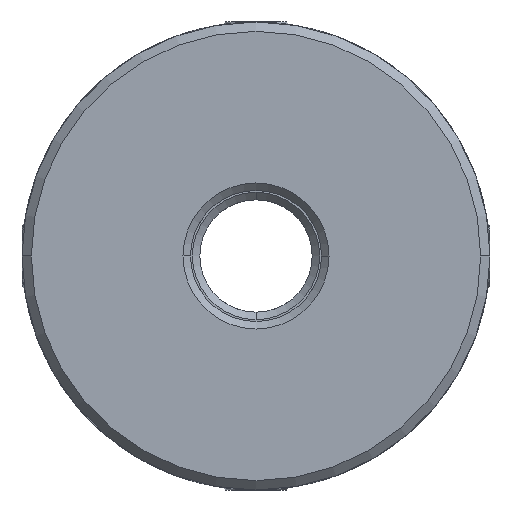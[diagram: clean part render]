
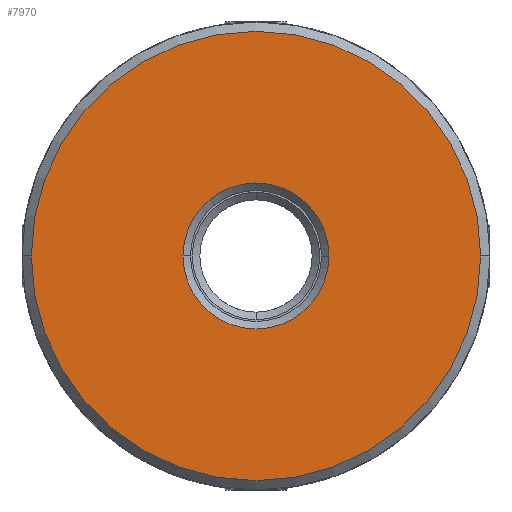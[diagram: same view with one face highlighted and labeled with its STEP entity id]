
A CAD part, front view. The second image highlights one B-rep face of the part: STEP entity #7970.
In plain terms, the highlighted planar face has unit normal (0, -1, 0).
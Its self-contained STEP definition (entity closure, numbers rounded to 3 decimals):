
#531 = CARTESIAN_POINT ( 'NONE',  ( 3.9, -28., 0. ) ) ;
#546 = DIRECTION ( 'NONE',  ( 0., -1., 0. ) ) ;
#777 = CIRCLE ( 'NONE', #2889, 12. ) ;
#1529 = CARTESIAN_POINT ( 'NONE',  ( -12., -28., 0. ) ) ;
#1626 = EDGE_CURVE ( 'NONE', #5860, #6724, #777, .T. ) ;
#1735 = ORIENTED_EDGE ( 'NONE', *, *, #2873, .T. ) ;
#1956 = AXIS2_PLACEMENT_3D ( 'NONE', #3142, #2430, #4664 ) ;
#2011 = ORIENTED_EDGE ( 'NONE', *, *, #3863, .T. ) ;
#2430 = DIRECTION ( 'NONE',  ( 0., -1., 0. ) ) ;
#2455 = ORIENTED_EDGE ( 'NONE', *, *, #1626, .T. ) ;
#2525 = AXIS2_PLACEMENT_3D ( 'NONE', #4353, #8074, #7350 ) ;
#2873 = EDGE_CURVE ( 'NONE', #5830, #8519, #9588, .T. ) ;
#2889 = AXIS2_PLACEMENT_3D ( 'NONE', #6676, #546, #8872 ) ;
#3142 = CARTESIAN_POINT ( 'NONE',  ( 0., -28., 0. ) ) ;
#3236 = DIRECTION ( 'NONE',  ( -1., 0., 0. ) ) ;
#3328 = FACE_BOUND ( 'NONE', #4486, .T. ) ;
#3863 = EDGE_CURVE ( 'NONE', #8519, #5830, #7428, .T. ) ;
#3926 = FACE_OUTER_BOUND ( 'NONE', #7432, .T. ) ;
#4106 = DIRECTION ( 'NONE',  ( 0., 1., 0. ) ) ;
#4353 = CARTESIAN_POINT ( 'NONE',  ( -19.597, -28., -50. ) ) ;
#4486 = EDGE_LOOP ( 'NONE', ( #1735, #2011 ) ) ;
#4664 = DIRECTION ( 'NONE',  ( -1., 0., 0. ) ) ;
#5271 = EDGE_CURVE ( 'NONE', #6724, #5860, #9492, .T. ) ;
#5571 = DIRECTION ( 'NONE',  ( -1., 0., 0. ) ) ;
#5661 = ORIENTED_EDGE ( 'NONE', *, *, #5271, .T. ) ;
#5675 = AXIS2_PLACEMENT_3D ( 'NONE', #9399, #4106, #5571 ) ;
#5830 = VERTEX_POINT ( 'NONE', #531 ) ;
#5860 = VERTEX_POINT ( 'NONE', #1529 ) ;
#6676 = CARTESIAN_POINT ( 'NONE',  ( 0., -28., 0. ) ) ;
#6724 = VERTEX_POINT ( 'NONE', #8809 ) ;
#7171 = AXIS2_PLACEMENT_3D ( 'NONE', #7759, #7790, #3236 ) ;
#7318 = PLANE ( 'NONE',  #2525 ) ;
#7350 = DIRECTION ( 'NONE',  ( -1., 0., 0. ) ) ;
#7428 = CIRCLE ( 'NONE', #7171, 3.9 ) ;
#7432 = EDGE_LOOP ( 'NONE', ( #2455, #5661 ) ) ;
#7759 = CARTESIAN_POINT ( 'NONE',  ( 0., -28., 0. ) ) ;
#7790 = DIRECTION ( 'NONE',  ( 0., 1., 0. ) ) ;
#7970 = ADVANCED_FACE ( 'NONE', ( #3926, #3328 ), #7318, .F. ) ;
#8074 = DIRECTION ( 'NONE',  ( 0., 1., 0. ) ) ;
#8519 = VERTEX_POINT ( 'NONE', #9852 ) ;
#8809 = CARTESIAN_POINT ( 'NONE',  ( 12., -28., 0. ) ) ;
#8872 = DIRECTION ( 'NONE',  ( -1., 0., 0. ) ) ;
#9399 = CARTESIAN_POINT ( 'NONE',  ( 0., -28., 0. ) ) ;
#9492 = CIRCLE ( 'NONE', #1956, 12. ) ;
#9588 = CIRCLE ( 'NONE', #5675, 3.9 ) ;
#9852 = CARTESIAN_POINT ( 'NONE',  ( -3.9, -28., 0. ) ) ;
